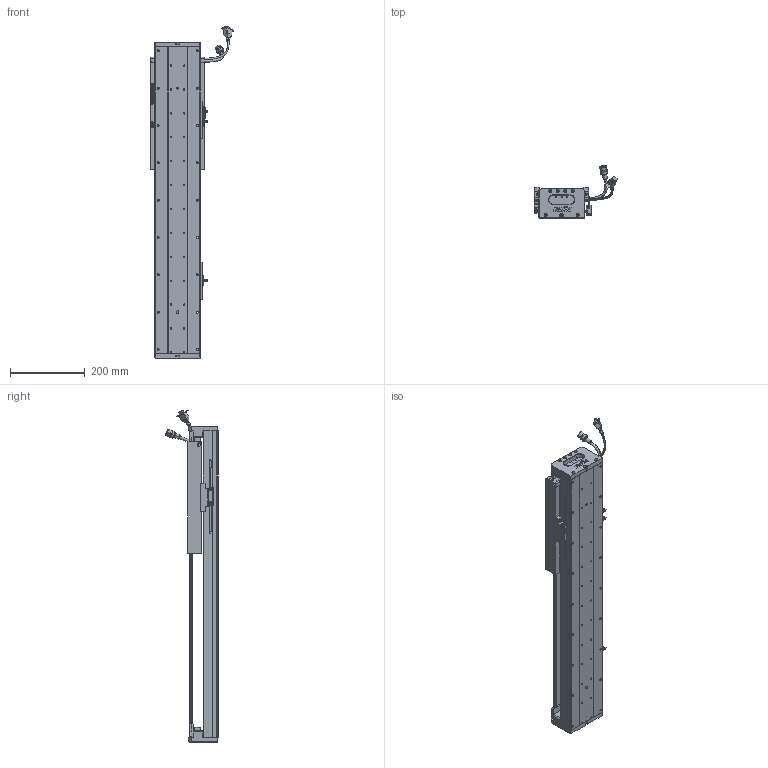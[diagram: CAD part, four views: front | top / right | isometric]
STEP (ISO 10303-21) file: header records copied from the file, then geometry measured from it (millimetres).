
FILE_DESCRIPTION (( 'STEP AP203' ), '1' );
FILE_NAME ('Z4-RY120D-1-L500-B-K.SLDASM_0450.step', '2021-05-17T06:06:05', ( '盈信电脑' ), ( '东莞市道滘镇水果街19号' ), 'SwSTEP 2.0', 'SolidWorks 2016', '' );
FILE_SCHEMA (( 'CONFIG_CONTROL_DESIGN' ));
Length unit declared in the file: millimetre
Products named in the file (37): LABEL-Part-1; SCALE; HARNESS-Part-1; SHIELDPLATE; LABEL; 榋妏寠巭燃_暯_M2_2; 覜茼ん672; RY100FB-遵嫖萇覜茼え; Z-RY120D詩湍奻揤裔; Z4-RY120D-1-L500-B-K.SLDASM_0450; SCREW-M1.6-1; 672嫖萇羲壽假蚾釱; 140蚥薯蝶輸; 120-Z-臏賑輸盄裔(21遴); SCREW-M1.6; Z-120詩湍傷裔啣; COVER-Part-1; SCREW-M1.7; SCALE-Part-1; Z4-RY120铝滑块（21款）; COVER; Z4-RY120-L500詩湍100mm遵_0450; Z4-RY120-500-倰第菁釱_0450; HOLDER0; SCREW-M1.6-2; HARNESS; SCREW-M1.6-3; Z-RY120D詩湍狟揤裔; SEAL-Part-1; SEAL; SCALE-Part-2; 080黍杅芛假蚾釱21遴; 140雄赽晤鎢ん堤盄; PBU_SHEET; HARNESS-Part-2; PSLH080_PSLF2; SCREW-M1.7-1
Assembly tree (43 placements, depth 4):
  Z4-RY120D-1-L500-B-K.SLDASM_0450
    Z4-RY120-500-倰第菁釱_0450
    覜茼ん672  x3
    672嫖萇羲壽假蚾釱  x2
    Z4-RY120铝滑块（21款）
    PSLH080_PSLF2
      SCALE
        SCALE-Part-1
        SCALE-Part-2
      HARNESS
        HARNESS-Part-1
        HARNESS-Part-2
      LABEL
        LABEL-Part-1
      COVER
        COVER-Part-1
      SEAL
        SEAL-Part-1
      榋妏寠巭燃_暯_M2_2
      SHIELDPLATE
      SCREW-M1.7
      SCREW-M1.7-1
      PBU_SHEET
      SCREW-M1.6
      SCREW-M1.6-1
      SCREW-M1.6-2
      SCREW-M1.6-3
      HOLDER0
    080黍杅芛假蚾釱21遴
    120-Z-臏賑輸盄裔(21遴)
    140雄赽晤鎢ん堤盄
    140蚥薯蝶輸  x2
    RY100FB-遵嫖萇覜茼え
    Z-120詩湍傷裔啣  x2
    Z-RY120D詩湍奻揤裔  x2
    Z-RY120D詩湍狟揤裔  x2
    Z4-RY120-L500詩湍100mm遵_0450
Bounding box: 222.88 x 140.94 x 889 mm (x, y, z)
Volume: 2859919.7 mm3; surface area: 907342.7 mm2
Topology: 38 solids, 38 shells, 2741 faces, 7358 edges, 4650 vertices
Faces by surface type: cylinder 1240, plane 1113, cone 266, torus 69, bspline 53
Entity records: 81305 total; most frequent: CARTESIAN_POINT 21298, ORIENTED_EDGE 11708, DIRECTION 11602, EDGE_CURVE 5854, AXIS2_PLACEMENT_3D 4240, VERTEX_POINT 3770, VECTOR 3122, LINE 3122
